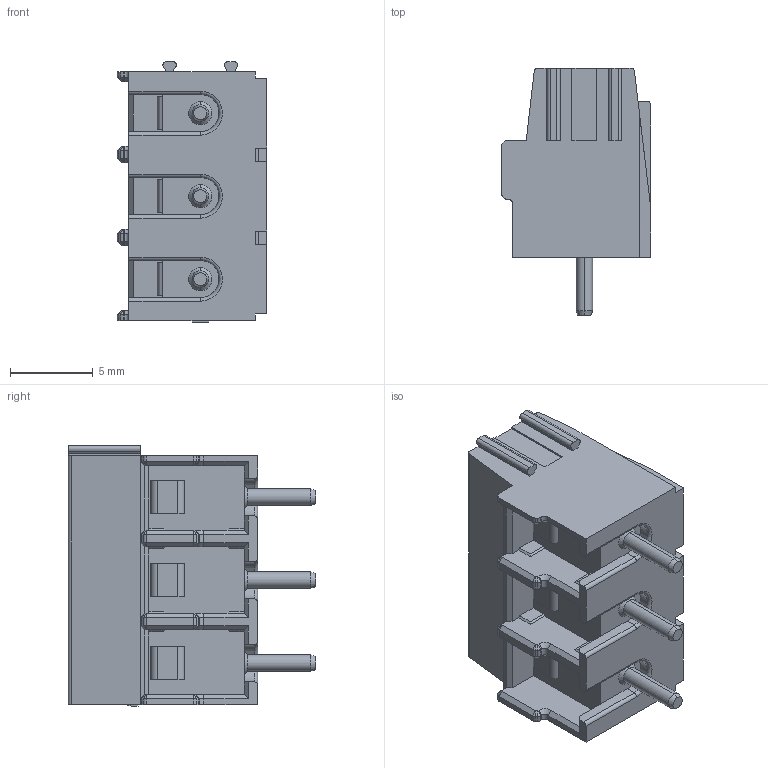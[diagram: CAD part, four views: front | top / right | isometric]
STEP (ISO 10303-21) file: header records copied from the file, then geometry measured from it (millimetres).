
FILE_DESCRIPTION((''),'2;1');
FILE_NAME('3','2019-05-05T',('zhenbing.lai'),(''),'CREO PARAMETRIC BY PTC INC, 2016260','CREO PARAMETRIC BY PTC INC, 2016260','');
FILE_SCHEMA(('CONFIG_CONTROL_DESIGN'));
Length unit declared in the file: millimetre
Products named in the file (1): 3
Bounding box: 9 x 14.9 x 15.7 mm (x, y, z)
Volume: 1110.3 mm3; surface area: 1164.9 mm2
Topology: 1 solids, 1 shells, 468 faces, 1345 edges, 863 vertices
Faces by surface type: plane 268, cylinder 101, cone 78, torus 21
Entity records: 16045 total; most frequent: CARTESIAN_POINT 3815, ORIENTED_EDGE 2642, DIRECTION 2460, EDGE_CURVE 1321, VERTEX_POINT 863, VECTOR 822, LINE 822, AXIS2_PLACEMENT_3D 819
